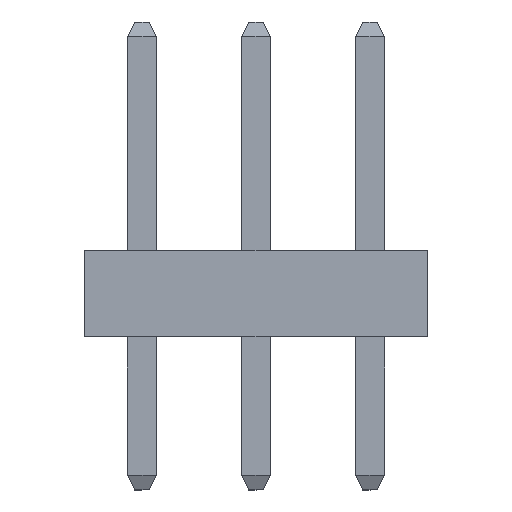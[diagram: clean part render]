
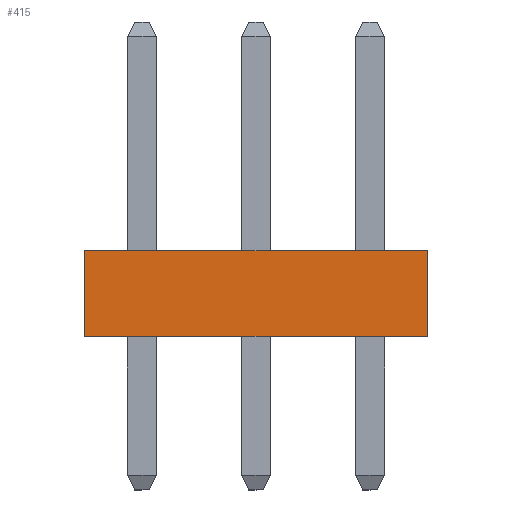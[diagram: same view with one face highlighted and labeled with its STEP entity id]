
A CAD part, top view. The second image highlights one B-rep face of the part: STEP entity #415.
In plain terms, the highlighted planar face has unit normal (0, 0, 1).
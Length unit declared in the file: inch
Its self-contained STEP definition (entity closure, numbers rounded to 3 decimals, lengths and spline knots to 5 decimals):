
#415 = ADVANCED_FACE( '', ( #854 ), #855, .F. );
#854 = FACE_OUTER_BOUND( '', #1338, .T. );
#855 = PLANE( '', #1339 );
#1338 = EDGE_LOOP( '', ( #2304, #2305, #2306, #2307 ) );
#1339 = AXIS2_PLACEMENT_3D( '', #2308, #2309, #2310 );
#2304 = ORIENTED_EDGE( '', *, *, #3054, .T. );
#2305 = ORIENTED_EDGE( '', *, *, #3239, .F. );
#2306 = ORIENTED_EDGE( '', *, *, #3240, .F. );
#2307 = ORIENTED_EDGE( '', *, *, #2933, .T. );
#2308 = CARTESIAN_POINT( '', ( -0.11811, 0.059, 0.0775 ) );
#2309 = DIRECTION( '', ( 0., 0., -1. ) );
#2310 = DIRECTION( '', ( -1., 0., 0. ) );
#2933 = EDGE_CURVE( '', #3504, #3502, #3505, .T. );
#3054 = EDGE_CURVE( '', #3502, #3699, #3701, .T. );
#3239 = EDGE_CURVE( '', #3957, #3699, #3958, .T. );
#3240 = EDGE_CURVE( '', #3504, #3957, #3959, .T. );
#3502 = VERTEX_POINT( '', #4299 );
#3504 = VERTEX_POINT( '', #4302 );
#3505 = LINE( '', #4303, #4304 );
#3699 = VERTEX_POINT( '', #4590 );
#3701 = LINE( '', #4593, #4594 );
#3957 = VERTEX_POINT( '', #4987 );
#3958 = LINE( '', #4988, #4989 );
#3959 = LINE( '', #4990, #4991 );
#4299 = CARTESIAN_POINT( '', ( -0.11811, 0., 0.0775 ) );
#4302 = CARTESIAN_POINT( '', ( -0.11811, 0.059, 0.0775 ) );
#4303 = CARTESIAN_POINT( '', ( -0.11811, 0.059, 0.0775 ) );
#4304 = VECTOR( '', #5254, 39.37008 );
#4590 = CARTESIAN_POINT( '', ( 0.11811, 0., 0.0775 ) );
#4593 = CARTESIAN_POINT( '', ( -0.11811, 0., 0.0775 ) );
#4594 = VECTOR( '', #5348, 39.37008 );
#4987 = CARTESIAN_POINT( '', ( 0.11811, 0.059, 0.0775 ) );
#4988 = CARTESIAN_POINT( '', ( 0.11811, 0.059, 0.0775 ) );
#4989 = VECTOR( '', #5486, 39.37008 );
#4990 = CARTESIAN_POINT( '', ( -0.11811, 0.059, 0.0775 ) );
#4991 = VECTOR( '', #5487, 39.37008 );
#5254 = DIRECTION( '', ( 0., -1., 0. ) );
#5348 = DIRECTION( '', ( 1., 0., 0. ) );
#5486 = DIRECTION( '', ( 0., -1., 0. ) );
#5487 = DIRECTION( '', ( 1., 0., 0. ) );
